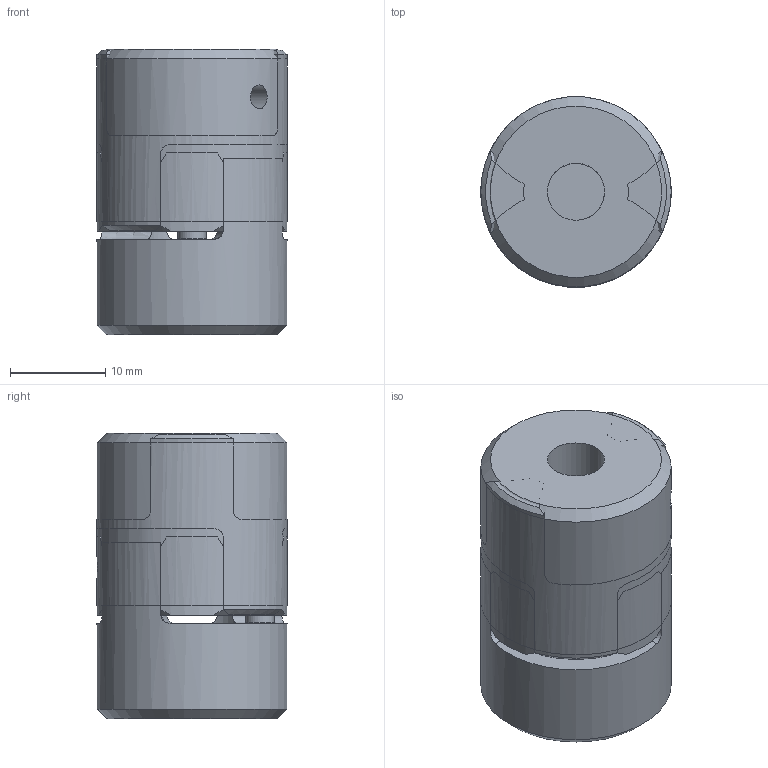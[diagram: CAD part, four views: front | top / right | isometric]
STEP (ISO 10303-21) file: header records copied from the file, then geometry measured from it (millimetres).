
FILE_DESCRIPTION( ( 'Unknown' ), '1' );
FILE_NAME( 'C:/Dokumente und Einstellungen/Sven/Desktop/homepage/cad - homepage/KBE1/KBE 1 - 9.stp', 'Unknown', ( 'Unknown' ), ( 'Unknown' ), 'XStep 1.0', 'Unknown', ' ' );
FILE_SCHEMA( ( 'automotive_design' ) );
Length unit declared in the file: millimetre
Products named in the file (3): Assem1; ZK9_Standard; KBE 1 - 9_Nabe
Bounding box: 20 x 20 x 30 mm (x, y, z)
Surface area: 7664 mm2
Topology: 5 solids, 5 shells, 187 faces, 457 edges, 292 vertices
Faces by surface type: cylinder 71, cone 63, plane 34, torus 19
Full cylindrical faces by diameter (mm): 2.5 x3, 3 x8, 6 x3, 7.2 x4, 20 x3
Entity records: 2894 total; most frequent: CARTESIAN_POINT 669, DIRECTION 388, ORIENTED_EDGE 346, AXIS2_PLACEMENT_3D 182, EDGE_CURVE 173, VERTEX_POINT 119, EDGE_LOOP 104, CIRCLE 99
